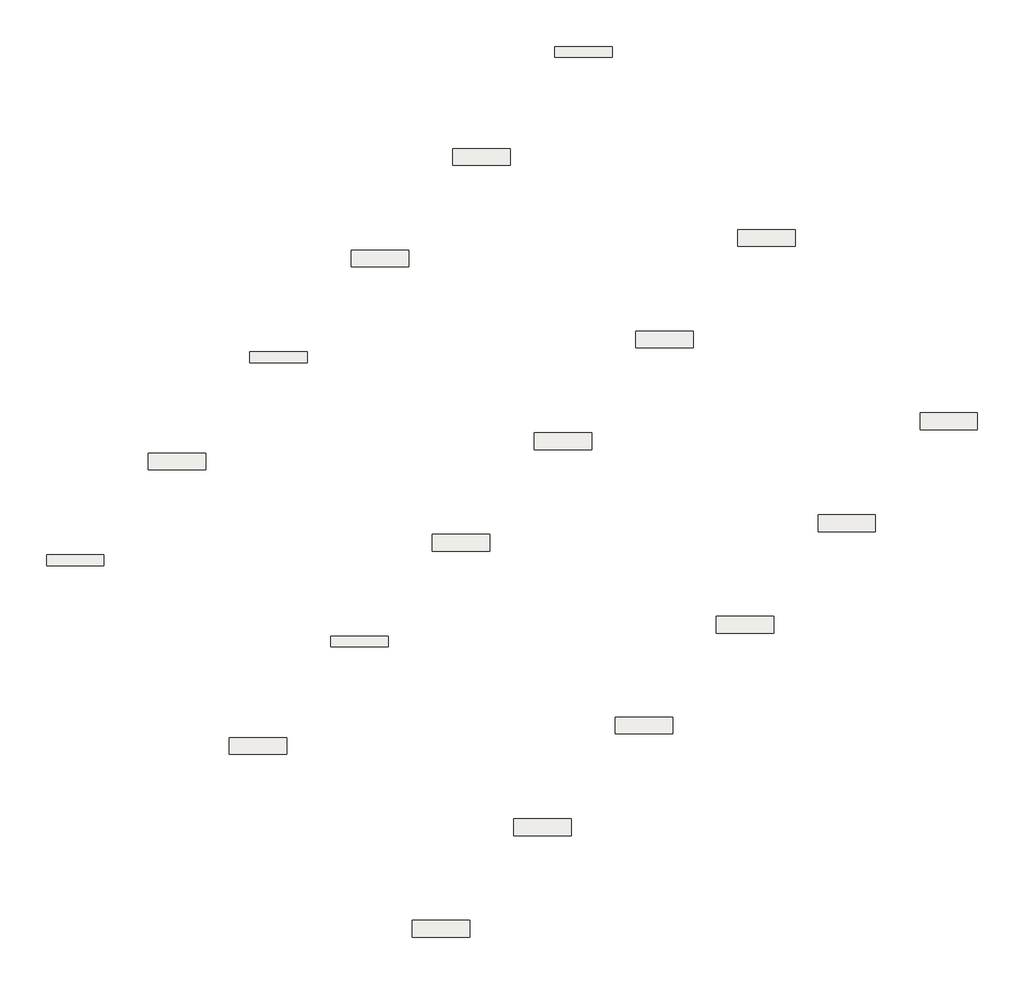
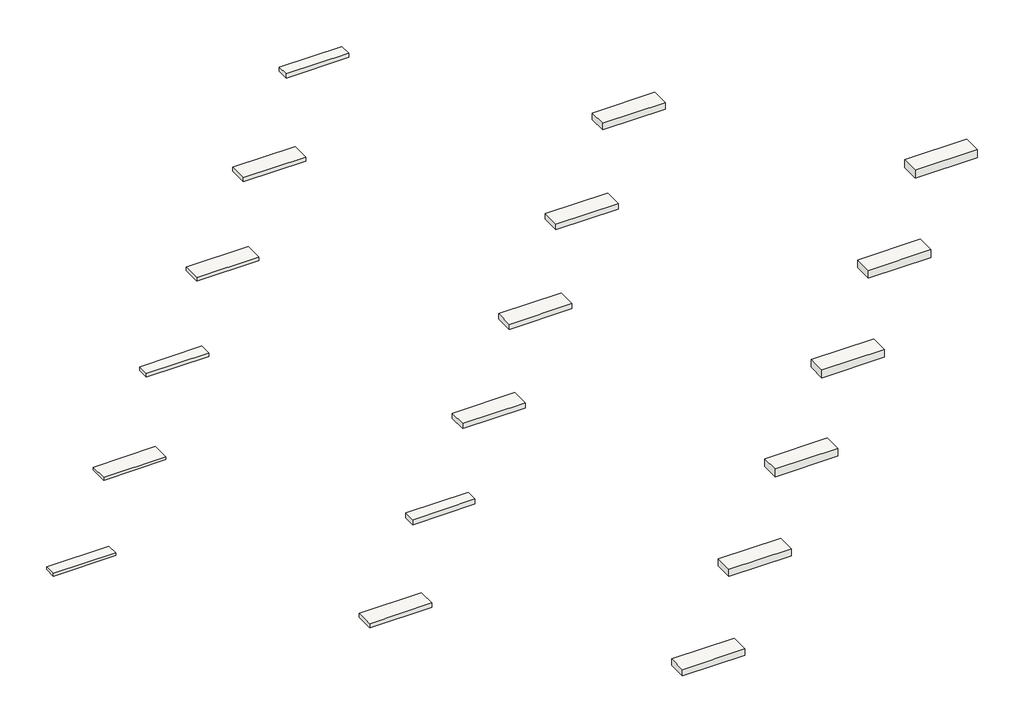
# One storey: 18 roofs.
"""IFC4 building model written with IfcOpenShell, lengths in millimetres."""

from ifc_helpers import new_model, si_unit, frame, origin, place, context, project, spatial, polyline, outline, extrude, element, save

model = new_model("IFC4")

# Units and contexts
model_context = context("Model", 3, world=origin())
ifc_project = project(units=[si_unit("LENGTHUNIT", "METRE", prefix="MILLI")], contexts=[model_context])

# Site, building, storey
site = spatial("IfcSite", under=ifc_project)
building = spatial("IfcBuilding", under=site)
storey = spatial("IfcBuildingStorey", under=building, Name="Lengte", Elevation=2500.0)

# Roofs
placement = place(None, origin())
element("IfcRoof", 1, ObjectType="NLRS_27_RO_Naturoll 037_90x380x8200mm", at=placement, inside=storey, context=model_context, shape_type="SweptSolid", body=[
    extrude(outline(polyline([(-10839.8806952, 1271.6712629), (-8839.8806952, 1271.6712629), (-8839.8806952, 891.6712629), (-10839.8806952, 891.6712629), (-10839.8806952, 1271.6712629)])), frame((0.0, 0.0, 2500.0), z_axis=(0.0, 0.0, 1.0), x_axis=(1.0, 0.0, 0.0)), (0.0, 0.0, 1.0), 90.0),
])
element("IfcRoof", 2, ObjectType="NLRS_27_RO_Naturoll 037_90x580x8200mm", at=placement, inside=storey, context=model_context, shape_type="SweptSolid", body=[
    extrude(outline(polyline([(-7304.3467893, 4807.2051688), (-5304.3467893, 4807.2051688), (-5304.3467893, 4227.2051688), (-7304.3467893, 4227.2051688), (-7304.3467893, 4807.2051688)])), frame((0.0, 0.0, 2500.0), z_axis=(0.0, 0.0, 1.0), x_axis=(1.0, 0.0, 0.0)), (0.0, 0.0, 1.0), 90.0),
])
element("IfcRoof", 3, ObjectType="NLRS_27_RO_Naturoll 037_120x380x6500mm", at=placement, inside=storey, context=model_context, shape_type="SweptSolid", body=[
    extrude(outline(polyline([(-3768.8128833, 8342.7390748), (-1768.8128833, 8342.7390748), (-1768.8128833, 7962.7390748), (-3768.8128833, 7962.7390748), (-3768.8128833, 8342.7390748)])), frame((0.0, 0.0, 2500.0), z_axis=(0.0, 0.0, 1.0), x_axis=(1.0, 0.0, 0.0)), (0.0, 0.0, 1.0), 120.0),
])
element("IfcRoof", 4, ObjectType="NLRS_27_RO_Naturoll 037_120x580x6500mm", at=placement, inside=storey, context=model_context, shape_type="SweptSolid", body=[
    extrude(outline(polyline([(-233.2789774, 11878.2729807), (1766.7210226, 11878.2729807), (1766.7210226, 11298.2729807), (-233.2789774, 11298.2729807), (-233.2789774, 11878.2729807)])), frame((0.0, 0.0, 2500.0), z_axis=(0.0, 0.0, 1.0), x_axis=(1.0, 0.0, 0.0)), (0.0, 0.0, 1.0), 120.0),
])
element("IfcRoof", 5, ObjectType="NLRS_27_RO_Naturoll 037_135x590x5800mm", at=placement, inside=storey, context=model_context, shape_type="SweptSolid", body=[
    extrude(outline(polyline([(3302.2549285, 15413.8068866), (5302.2549285, 15413.8068866), (5302.2549285, 14823.8068866), (3302.2549285, 14823.8068866), (3302.2549285, 15413.8068866)])), frame((0.0, 0.0, 2500.0), z_axis=(0.0, 0.0, 1.0), x_axis=(1.0, 0.0, 0.0)), (0.0, 0.0, 1.0), 135.0),
])
element("IfcRoof", 6, ObjectType="NLRS_27_RO_Naturoll 037_140x580x5600mm", at=placement, inside=storey, context=model_context, shape_type="SweptSolid", body=[
    extrude(outline(polyline([(-4475.9196645, -5092.2897678), (-2475.9196645, -5092.2897678), (-2475.9196645, -5672.2897678), (-4475.9196645, -5672.2897678), (-4475.9196645, -5092.2897678)])), frame((0.0, 0.0, 2500.0), z_axis=(0.0, 0.0, 1.0), x_axis=(1.0, 0.0, 0.0)), (0.0, 0.0, 1.0), 140.0),
])
element("IfcRoof", 7, ObjectType="NLRS_27_RO_Naturoll 037_170x380x4600mm", at=placement, inside=storey, context=model_context, shape_type="SweptSolid", body=[
    extrude(outline(polyline([(-940.3857586, -1556.7558618), (1059.6142414, -1556.7558618), (1059.6142414, -1936.7558618), (-940.3857586, -1936.7558618), (-940.3857586, -1556.7558618)])), frame((0.0, 0.0, 2500.0), z_axis=(0.0, 0.0, 1.0), x_axis=(1.0, 0.0, 0.0)), (0.0, 0.0, 1.0), 170.0),
])
element("IfcRoof", 8, ObjectType="NLRS_27_RO_Naturoll 037_170x580x4600mm", at=placement, inside=storey, context=model_context, shape_type="SweptSolid", body=[
    extrude(outline(polyline([(2595.1481473, 1978.7780441), (4595.1481473, 1978.7780441), (4595.1481473, 1398.7780441), (2595.1481473, 1398.7780441), (2595.1481473, 1978.7780441)])), frame((0.0, 0.0, 2500.0), z_axis=(0.0, 0.0, 1.0), x_axis=(1.0, 0.0, 0.0)), (0.0, 0.0, 1.0), 170.0),
])
element("IfcRoof", 9, ObjectType="NLRS_27_RO_Naturoll 037_170x590x4600mm", at=placement, inside=storey, context=model_context, shape_type="SweptSolid", body=[
    extrude(outline(polyline([(6130.6820533, 5514.31195), (8130.6820533, 5514.31195), (8130.6820533, 4924.31195), (6130.6820533, 4924.31195), (6130.6820533, 5514.31195)])), frame((0.0, 0.0, 2500.0), z_axis=(0.0, 0.0, 1.0), x_axis=(1.0, 0.0, 0.0)), (0.0, 0.0, 1.0), 170.0),
])
element("IfcRoof", 10, ObjectType="NLRS_27_RO_Naturoll 037_190x380x4100mm", at=placement, inside=storey, context=model_context, shape_type="SweptSolid", body=[
    extrude(outline(polyline([(9666.2159592, 9049.845856), (11666.2159592, 9049.845856), (11666.2159592, 8469.845856), (9666.2159592, 8469.845856), (9666.2159592, 9049.845856)])), frame((0.0, 0.0, 2500.0), z_axis=(0.0, 0.0, 1.0), x_axis=(1.0, 0.0, 0.0)), (0.0, 0.0, 1.0), 190.0),
])
element("IfcRoof", 11, ObjectType="NLRS_27_RO_Naturoll 037_220x580x3500mm", at=placement, inside=storey, context=model_context, shape_type="SweptSolid", body=[
    extrude(outline(polyline([(13219.253694, 12587.1969103), (15219.253694, 12587.1969103), (15219.253694, 12007.1969103), (13219.253694, 12007.1969103), (13219.253694, 12587.1969103)])), frame((0.0, 0.0, 2500.0), z_axis=(0.0, 0.0, 1.0), x_axis=(1.0, 0.0, 0.0)), (0.0, 0.0, 1.0), 220.0),
])
element("IfcRoof", 12, ObjectType="NLRS_27_RO_Naturoll 037_220x590x3500mm", at=placement, inside=storey, context=model_context, shape_type="SweptSolid", body=[
    extrude(outline(polyline([(1887.7504273, -11456.5417373), (3887.7504273, -11456.5417373), (3887.7504273, -12046.5417373), (1887.7504273, -12046.5417373), (1887.7504273, -11456.5417373)])), frame((0.0, 0.0, 2500.0), z_axis=(0.0, 0.0, 1.0), x_axis=(1.0, 0.0, 0.0)), (0.0, 0.0, 1.0), 220.0),
])
element("IfcRoof", 13, ObjectType="NLRS_27_RO_Naturoll 037_240x590x3250mm", at=placement, inside=storey, context=model_context, shape_type="SweptSolid", body=[
    extrude(outline(polyline([(5423.2843332, -7921.0078314), (7423.2843332, -7921.0078314), (7423.2843332, -8511.0078314), (5423.2843332, -8511.0078314), (5423.2843332, -7921.0078314)])), frame((0.0, 0.0, 2500.0), z_axis=(0.0, 0.0, 1.0), x_axis=(1.0, 0.0, 0.0)), (0.0, 0.0, 1.0), 240.0),
])
element("IfcRoof", 14, ObjectType="NLRS_27_RO_Naturoll 037_260x580x3000mm", at=placement, inside=storey, context=model_context, shape_type="SweptSolid", body=[
    extrude(outline(polyline([(8958.8182392, -4385.4739254), (10958.8182392, -4385.4739254), (10958.8182392, -4965.4739254), (8958.8182392, -4965.4739254), (8958.8182392, -4385.4739254)])), frame((0.0, 0.0, 2500.0), z_axis=(0.0, 0.0, 1.0), x_axis=(1.0, 0.0, 0.0)), (0.0, 0.0, 1.0), 260.0),
])
element("IfcRoof", 15, ObjectType="NLRS_27_RO_Naturoll 037_270x590x3000mm", at=placement, inside=storey, context=model_context, shape_type="SweptSolid", body=[
    extrude(outline(polyline([(19565.419957, 6221.1277924), (21565.419957, 6221.1277924), (21565.419957, 5631.1277924), (19565.419957, 5631.1277924), (19565.419957, 6221.1277924)])), frame((0.0, 0.0, 2500.0), z_axis=(0.0, 0.0, 1.0), x_axis=(1.0, 0.0, 0.0)), (0.0, 0.0, 1.0), 270.0),
])
element("IfcRoof", 16, ObjectType="NLRS_27_RO_Naturoll 037_140x380x5600mm", at=placement, inside=storey, context=model_context, shape_type="SweptSolid", body=[
    extrude(outline(polyline([(6851.9309701, 18963.4829282), (8851.9309701, 18963.4829282), (8851.9309701, 18583.4829282), (6851.9309701, 18583.4829282), (6851.9309701, 18963.4829282)])), frame((0.0, 0.0, 2500.0), z_axis=(0.0, 0.0, 1.0), x_axis=(1.0, 0.0, 0.0)), (0.0, 0.0, 1.0), 140.0),
])
element("IfcRoof", 17, ObjectType="NLRS_27_RO_Naturoll 037_265x590x3000mm", at=placement, inside=storey, context=model_context, shape_type="SweptSolid", body=[
    extrude(outline(polyline([(16015.7439154, 2671.4517508), (18015.7439154, 2671.4517508), (18015.7439154, 2081.4517508), (16015.7439154, 2081.4517508), (16015.7439154, 2671.4517508)])), frame((0.0, 0.0, 2500.0), z_axis=(0.0, 0.0, 1.0), x_axis=(1.0, 0.0, 0.0)), (0.0, 0.0, 1.0), 265.0),
])
element("IfcRoof", 18, ObjectType="NLRS_27_RO_Naturoll 037_260x590x3000mm", at=placement, inside=storey, context=model_context, shape_type="SweptSolid", body=[
    extrude(outline(polyline([(12480.2100095, -864.0821551), (14480.2100095, -864.0821551), (14480.2100095, -1454.0821551), (12480.2100095, -1454.0821551), (12480.2100095, -864.0821551)])), frame((0.0, 0.0, 2500.0), z_axis=(0.0, 0.0, 1.0), x_axis=(1.0, 0.0, 0.0)), (0.0, 0.0, 1.0), 260.0),
])

save(model, "model.ifc")
